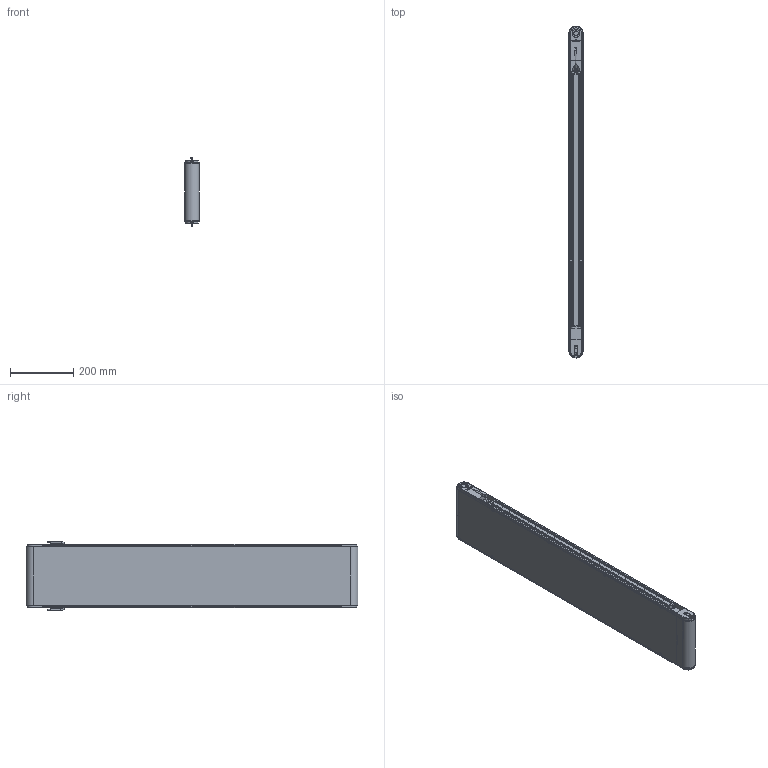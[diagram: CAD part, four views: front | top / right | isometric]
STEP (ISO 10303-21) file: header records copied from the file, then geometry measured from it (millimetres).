
FILE_DESCRIPTION(/* description */ (''),/* implementation_level */ '2;1');
FILE_NAME(/* name */ 'G:\DATEN\CAD\Förderband\Marketing\3D-Modelle (Standard)\FR-40-200\FR-40-200-1000-K.stp',/* time_stamp */ '2019-05-08T09:22:15+02:00',/* author */ ('melanie.ochs'),/* organization */ (''),/* preprocessor_version */ 'ST-DEVELOPER v17',/* originating_system */ 'Autodesk Inventor 2019',/* authorisation */ '');
FILE_SCHEMA (('CONFIG_CONTROL_DESIGN'));
Length unit declared in the file: centimetre
Products named in the file (1): FR-40-200-1000-K
Bounding box: 46.6 x 1046.6 x 217.07 mm (x, y, z)
Volume: 3116799.8 mm3; surface area: 1394620 mm2
Topology: 7 solids, 25 shells, 1136 faces, 3073 edges, 2031 vertices
Faces by surface type: plane 563, cylinder 332, bspline 124, cone 79, torus 38
Full cylindrical faces by diameter (mm): 2 x4, 4 x6, 4.3 x4, 4.917 x1, 5 x14, 5.5 x8, 6 x4, 6.647 x2, 8 x4, 8.3 x8, 8.5 x8, 8.773 x2, 10 x2, 11 x2, 12 x3, 15 x2, 20 x4, 25 x2, 28 x4
Entity records: 38584 total; most frequent: CARTESIAN_POINT 9304, ORIENTED_EDGE 6122, DIRECTION 5571, EDGE_CURVE 3061, VERTEX_POINT 2031, AXIS2_PLACEMENT_3D 1975, LINE 1621, VECTOR 1621
